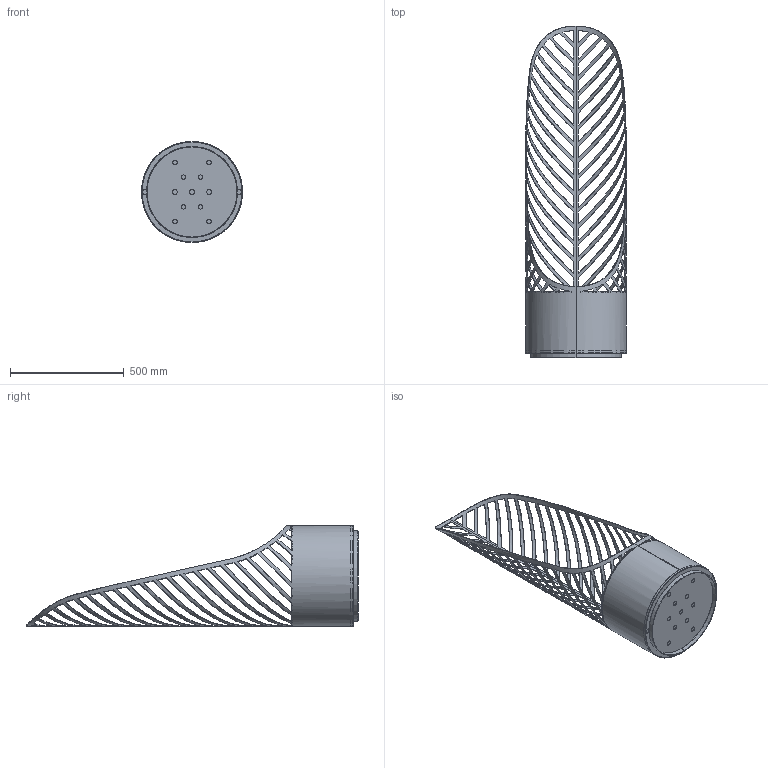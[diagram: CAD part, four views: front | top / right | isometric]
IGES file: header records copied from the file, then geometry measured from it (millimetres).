
Start section: SolidWorks IGES file using analytic representation for surfaces
Global section: file name: \\utenti\Dati Utenti\Tecnico\DC\2D - 3D per sito\3D\DeCastelli-3D-Screen Pot 1.igs; native system: SolidWorks 2022; preprocessor: SolidWorks 2022; author: Simonep; date: 240729.120658; units: millimetre
Bounding box: 444 x 1460 x 444 mm (x, y, z)
Surface area: 2313230.9 mm2 (no closed solid volume)
Topology: 0 solids, 0 shells, 255 faces, 2977 edges, 2977 vertices
Faces by surface type: bspline 208, revolution 47
